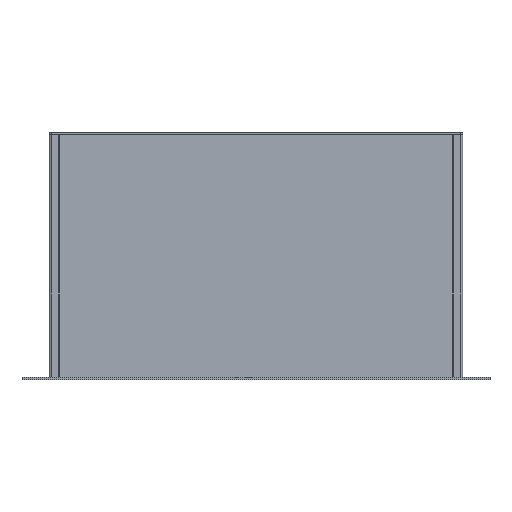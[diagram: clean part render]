
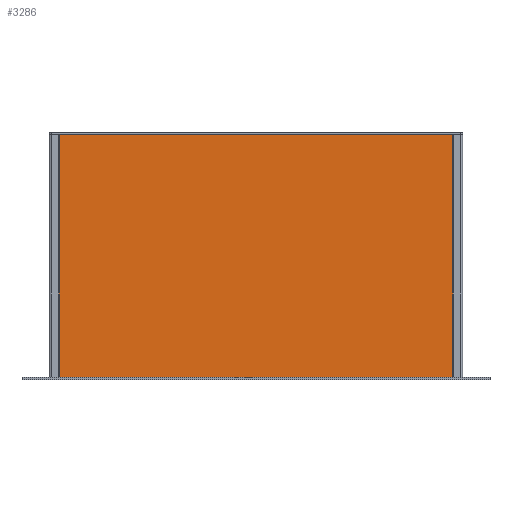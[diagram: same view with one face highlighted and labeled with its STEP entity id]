
A CAD part, top view. The second image highlights one B-rep face of the part: STEP entity #3286.
In plain terms, the highlighted planar face has unit normal (0, 0, 1).
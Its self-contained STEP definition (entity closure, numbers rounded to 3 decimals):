
#230=PLANE('',#3643);
#398=FACE_OUTER_BOUND('',#594,.T.);
#594=EDGE_LOOP('',(#3043,#3044,#3045,#3046));
#910=LINE('',#5476,#1254);
#917=LINE('',#5491,#1261);
#918=LINE('',#5493,#1262);
#919=LINE('',#5494,#1263);
#1254=VECTOR('',#4521,10.);
#1261=VECTOR('',#4534,10.);
#1262=VECTOR('',#4535,10.);
#1263=VECTOR('',#4536,10.);
#1698=VERTEX_POINT('',#5470);
#1700=VERTEX_POINT('',#5474);
#1705=VERTEX_POINT('',#5490);
#1706=VERTEX_POINT('',#5492);
#2150=EDGE_CURVE('',#1698,#1700,#910,.T.);
#2157=EDGE_CURVE('',#1705,#1698,#917,.T.);
#2158=EDGE_CURVE('',#1706,#1700,#918,.T.);
#2159=EDGE_CURVE('',#1705,#1706,#919,.T.);
#3043=ORIENTED_EDGE('',*,*,#2157,.T.);
#3044=ORIENTED_EDGE('',*,*,#2150,.T.);
#3045=ORIENTED_EDGE('',*,*,#2158,.F.);
#3046=ORIENTED_EDGE('',*,*,#2159,.F.);
#3286=ADVANCED_FACE('',(#398),#230,.T.);
#3643=AXIS2_PLACEMENT_3D('',#5489,#4532,#4533);
#4521=DIRECTION('',(0.,1.,0.));
#4532=DIRECTION('center_axis',(0.,0.,1.));
#4533=DIRECTION('ref_axis',(1.,0.,0.));
#4534=DIRECTION('',(1.,0.,0.));
#4535=DIRECTION('',(1.,0.,0.));
#4536=DIRECTION('',(0.,1.,0.));
#5470=CARTESIAN_POINT('',(444.6,0.,-19.3));
#5474=CARTESIAN_POINT('',(444.6,250.,-19.3));
#5476=CARTESIAN_POINT('',(444.6,0.,-19.3));
#5489=CARTESIAN_POINT('Origin',(38.4,0.,-19.3));
#5490=CARTESIAN_POINT('',(38.4,0.,-19.3));
#5491=CARTESIAN_POINT('',(38.4,0.,-19.3));
#5492=CARTESIAN_POINT('',(38.4,250.,-19.3));
#5493=CARTESIAN_POINT('',(38.4,250.,-19.3));
#5494=CARTESIAN_POINT('',(38.4,0.,-19.3));
